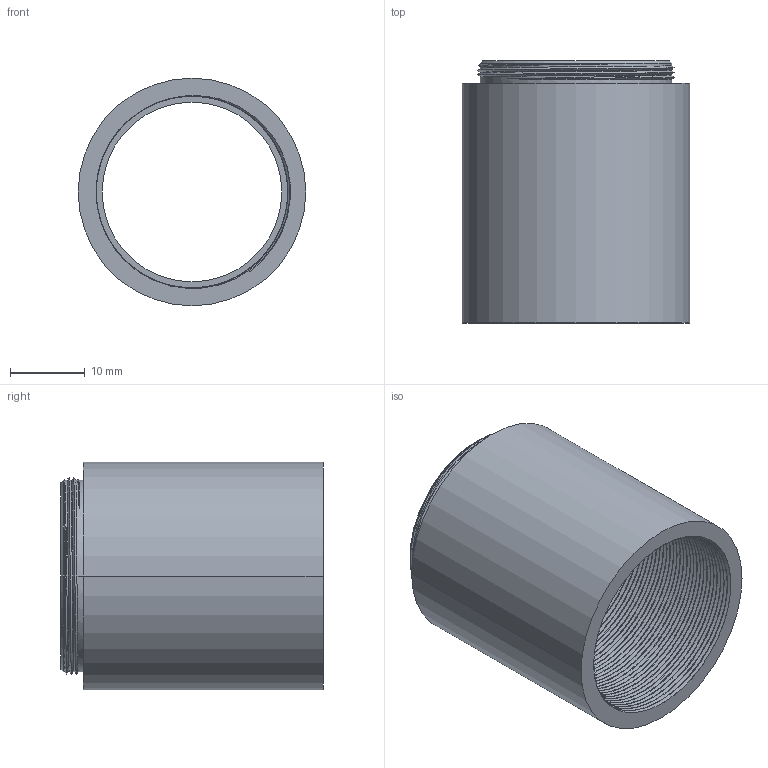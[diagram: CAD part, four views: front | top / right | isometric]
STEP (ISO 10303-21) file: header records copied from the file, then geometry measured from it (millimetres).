
FILE_DESCRIPTION((''),'2;1');
FILE_NAME('CSA-32','2024-12-19T11:45:58',('R&D'),(''),'CREO PARAMETRIC BY PTC INC, 2021063','CREO PARAMETRIC BY PTC INC, 2021063','');
FILE_SCHEMA(('CONFIG_CONTROL_DESIGN'));
Length unit declared in the file: millimetre
Products named in the file (1): CSA-32
Bounding box: 30.4 x 35 x 30.4 mm (x, y, z)
Volume: 6617.6 mm3; surface area: 8076.8 mm2
Topology: 1 solids, 1 shells, 147 faces, 410 edges, 268 vertices
Faces by surface type: cylinder 107, bspline 32, plane 6, cone 2
Entity records: 17693 total; most frequent: CARTESIAN_POINT 14456, ORIENTED_EDGE 820, DIRECTION 410, EDGE_CURVE 410, VERTEX_POINT 268, B_SPLINE_CURVE_WITH_KNOTS 250, EDGE_LOOP 152, FACE_OUTER_BOUND 147
